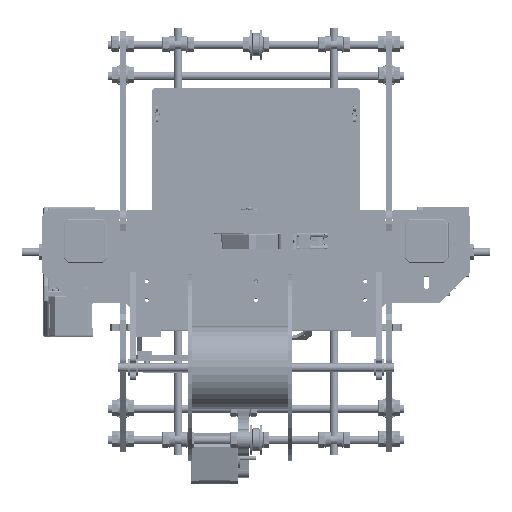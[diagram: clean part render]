
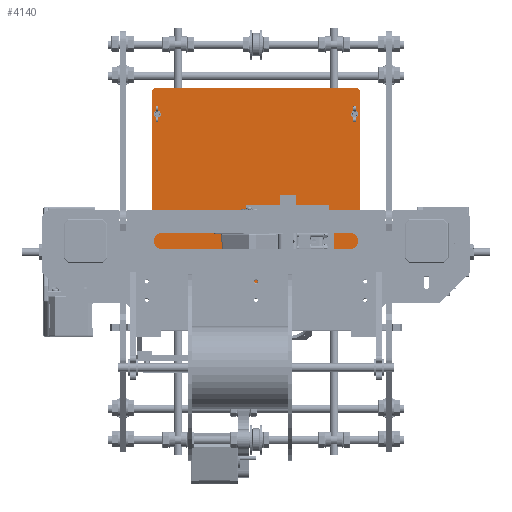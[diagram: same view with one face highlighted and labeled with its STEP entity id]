
A CAD part, top view. The second image highlights one B-rep face of the part: STEP entity #4140.
In plain terms, the highlighted planar face has unit normal (0, 0, 1).
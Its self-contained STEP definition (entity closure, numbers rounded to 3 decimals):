
#3730=CARTESIAN_POINT('',(-100.,98.0,2.8));
#3731=VERTEX_POINT('',#3730);
#3732=CARTESIAN_POINT('',(-98.,100.0,2.8));
#3733=VERTEX_POINT('',#3732);
#3734=CARTESIAN_POINT('',(-100.,98.,2.8));
#3735=DIRECTION('',(0.707,0.707,0.0));
#3736=VECTOR('',#3735,2.828);
#3737=LINE('',#3734,#3736);
#3738=EDGE_CURVE('',#3731,#3733,#3737,.T.);
#3878=CARTESIAN_POINT('',(98.,100.0,2.8));
#3879=VERTEX_POINT('',#3878);
#3880=CARTESIAN_POINT('',(-98.,100.0,2.8));
#3881=DIRECTION('',(1.0,0.0,0.0));
#3882=VECTOR('',#3881,196.0);
#3883=LINE('',#3880,#3882);
#3884=EDGE_CURVE('',#3733,#3879,#3883,.T.);
#3901=CARTESIAN_POINT('',(100.,98.0,2.8));
#3902=VERTEX_POINT('',#3901);
#3903=CARTESIAN_POINT('',(98.0,100.,2.8));
#3904=DIRECTION('',(0.707,-0.707,0.0));
#3905=VECTOR('',#3904,2.828);
#3906=LINE('',#3903,#3905);
#3907=EDGE_CURVE('',#3879,#3902,#3906,.T.);
#3925=CARTESIAN_POINT('',(-98.,-100.0,2.8));
#3926=VERTEX_POINT('',#3925);
#3927=CARTESIAN_POINT('',(-100.,-98.0,2.8));
#3928=VERTEX_POINT('',#3927);
#3929=CARTESIAN_POINT('',(-98.,-100.,2.8));
#3930=DIRECTION('',(-0.707,0.707,0.0));
#3931=VECTOR('',#3930,2.828);
#3932=LINE('',#3929,#3931);
#3933=EDGE_CURVE('',#3926,#3928,#3932,.T.);
#3958=CARTESIAN_POINT('',(98.,-100.,2.8));
#3959=VERTEX_POINT('',#3958);
#3966=CARTESIAN_POINT('',(98.0,-100.,2.8));
#3967=DIRECTION('',(-1.0,0.0,0.0));
#3968=VECTOR('',#3967,196.0);
#3969=LINE('',#3966,#3968);
#3970=EDGE_CURVE('',#3959,#3926,#3969,.T.);
#3980=CARTESIAN_POINT('',(100.,-98.,2.8));
#3981=VERTEX_POINT('',#3980);
#3982=CARTESIAN_POINT('',(100.,-98.,2.8));
#3983=DIRECTION('',(-0.707,-0.707,0.0));
#3984=VECTOR('',#3983,2.828);
#3985=LINE('',#3982,#3984);
#3986=EDGE_CURVE('',#3981,#3959,#3985,.T.);
#4004=CARTESIAN_POINT('',(-93.4,-75.,2.8));
#4005=VERTEX_POINT('',#4004);
#4006=CARTESIAN_POINT('',(-95.,-75.,2.8));
#4007=DIRECTION('',(0.0,0.0,-1.0));
#4008=DIRECTION('',(-1.0,0.0,0.0));
#4009=AXIS2_PLACEMENT_3D('',#4006,#4007,#4008);
#4010=CIRCLE('',#4009,1.6);
#4011=EDGE_CURVE('',#4005,#4005,#4010,.T.);
#4024=CARTESIAN_POINT('',(96.5,-75.,2.8));
#4025=VERTEX_POINT('',#4024);
#4026=CARTESIAN_POINT('',(95.,-75.,2.8));
#4027=DIRECTION('',(0.0,0.0,-1.0));
#4028=DIRECTION('',(-1.0,0.0,0.0));
#4029=AXIS2_PLACEMENT_3D('',#4026,#4027,#4028);
#4030=CIRCLE('',#4029,1.5);
#4031=EDGE_CURVE('',#4025,#4025,#4030,.T.);
#4044=CARTESIAN_POINT('',(96.5,75.,2.8));
#4045=VERTEX_POINT('',#4044);
#4046=CARTESIAN_POINT('',(95.,75.,2.8));
#4047=DIRECTION('',(0.0,0.0,-1.0));
#4048=DIRECTION('',(-1.0,0.0,0.0));
#4049=AXIS2_PLACEMENT_3D('',#4046,#4047,#4048);
#4050=CIRCLE('',#4049,1.5);
#4051=EDGE_CURVE('',#4045,#4045,#4050,.T.);
#4064=CARTESIAN_POINT('',(-93.5,75.,2.8));
#4065=VERTEX_POINT('',#4064);
#4066=CARTESIAN_POINT('',(-95.,75.,2.8));
#4067=DIRECTION('',(0.0,0.0,-1.0));
#4068=DIRECTION('',(-1.0,0.0,0.0));
#4069=AXIS2_PLACEMENT_3D('',#4066,#4067,#4068);
#4070=CIRCLE('',#4069,1.5);
#4071=EDGE_CURVE('',#4065,#4065,#4070,.T.);
#4085=CARTESIAN_POINT('',(100.,98.0,2.8));
#4086=DIRECTION('',(0.0,-1.0,0.0));
#4087=VECTOR('',#4086,196.);
#4088=LINE('',#4085,#4087);
#4089=EDGE_CURVE('',#3902,#3981,#4088,.T.);
#4104=CARTESIAN_POINT('',(-100.,-98.0,2.8));
#4105=DIRECTION('',(0.0,1.0,0.0));
#4106=VECTOR('',#4105,196.0);
#4107=LINE('',#4104,#4106);
#4108=EDGE_CURVE('',#3928,#3731,#4107,.T.);
#4113=CARTESIAN_POINT('',(0.,0.,2.8));
#4114=DIRECTION('',(0.0,0.0,1.0));
#4115=DIRECTION('',(1.0,0.0,0.0));
#4116=AXIS2_PLACEMENT_3D('',#4113,#4114,#4115);
#4117=PLANE('',#4116);
#4118=ORIENTED_EDGE('',*,*,#3738,.F.);
#4119=ORIENTED_EDGE('',*,*,#4108,.F.);
#4120=ORIENTED_EDGE('',*,*,#3933,.F.);
#4121=ORIENTED_EDGE('',*,*,#3970,.F.);
#4122=ORIENTED_EDGE('',*,*,#3986,.F.);
#4123=ORIENTED_EDGE('',*,*,#4089,.F.);
#4124=ORIENTED_EDGE('',*,*,#3907,.F.);
#4125=ORIENTED_EDGE('',*,*,#3884,.F.);
#4126=EDGE_LOOP('',(#4118,#4119,#4120,#4121,#4122,#4123,#4124,#4125));
#4127=FACE_OUTER_BOUND('',#4126,.T.);
#4128=ORIENTED_EDGE('',*,*,#4011,.T.);
#4129=EDGE_LOOP('',(#4128));
#4130=FACE_BOUND('',#4129,.T.);
#4131=ORIENTED_EDGE('',*,*,#4031,.T.);
#4132=EDGE_LOOP('',(#4131));
#4133=FACE_BOUND('',#4132,.T.);
#4134=ORIENTED_EDGE('',*,*,#4051,.T.);
#4135=EDGE_LOOP('',(#4134));
#4136=FACE_BOUND('',#4135,.T.);
#4137=ORIENTED_EDGE('',*,*,#4071,.T.);
#4138=EDGE_LOOP('',(#4137));
#4139=FACE_BOUND('',#4138,.T.);
#4140=ADVANCED_FACE('',(#4127,#4130,#4133,#4136,#4139),#4117,.T.);
